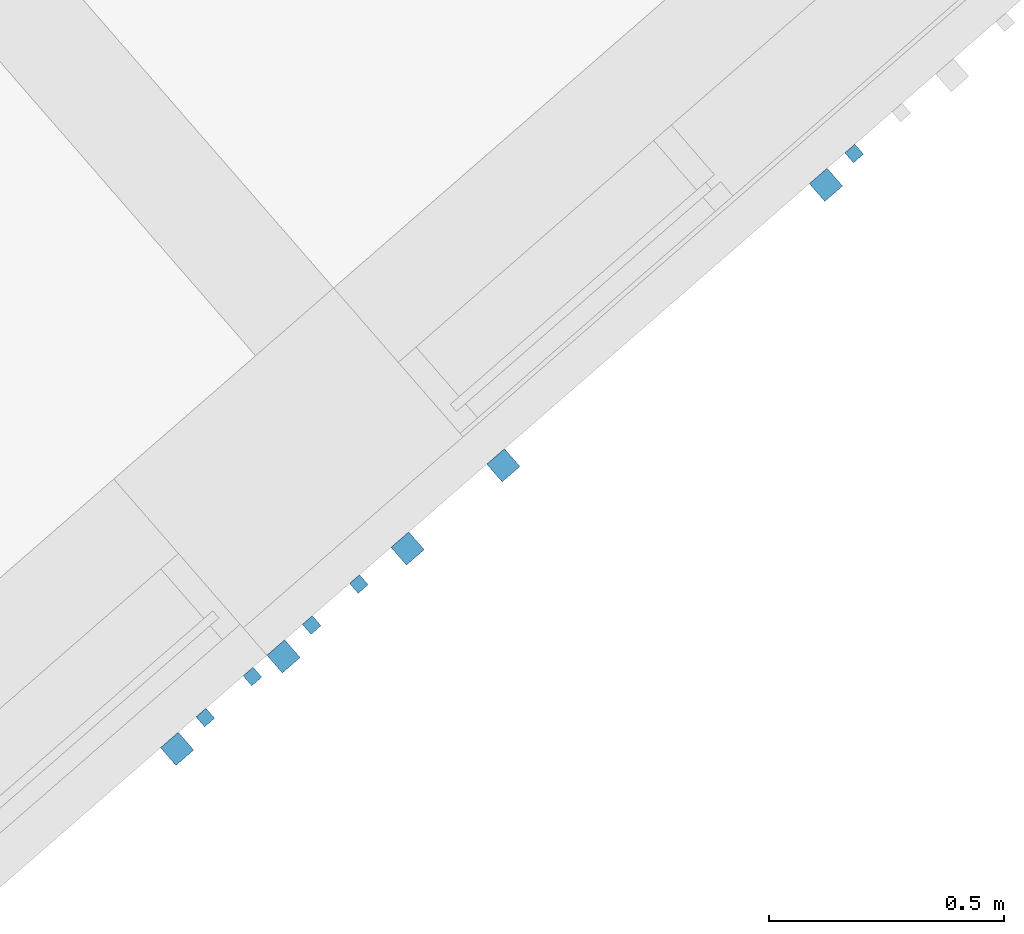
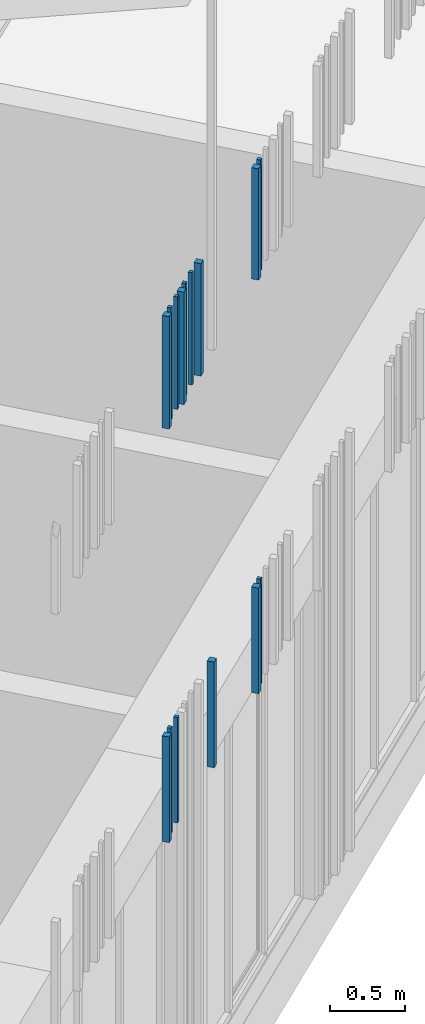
# One storey, part 90 of 124: 15 walls.
"""IFC2X3 building model written with IfcOpenShell, lengths in millimetres."""

from ifc_helpers import new_model, entity, si_unit, converted_unit, derived_unit, money_unit, direction, frame, origin_with_axes, place, context, subcontext, project, spatial, faceted_brep, material, type_object, element, save


model = new_model("IFC2X3")

# Units and contexts
model_context = context("Model", 3, precision=1e-05, world=origin_with_axes(), true_north=direction((0.0, 1.0)))
body_context = subcontext(model_context, "Body", "Model", "MODEL_VIEW")
ifc_project = project(units=[si_unit("LENGTHUNIT", "METRE", prefix="MILLI"), si_unit("AREAUNIT", "SQUARE_METRE"), si_unit("VOLUMEUNIT", "CUBIC_METRE"), converted_unit("PLANEANGLEUNIT", "DEGREE", entity("IfcPlaneAngleMeasure", 0.0174532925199), si_unit("PLANEANGLEUNIT", "RADIAN"), dimensions=[0, 0, 0, 0, 0, 0, 0]), si_unit("SOLIDANGLEUNIT", "STERADIAN"), money_unit("EUR"), converted_unit("TIMEUNIT", "Year", entity("IfcTimeMeasure", 31556926.0), si_unit("TIMEUNIT", "SECOND"), dimensions=[0, 0, 1, 0, 0, 0, 0]), si_unit("MASSUNIT", "GRAM", prefix="KILO"), si_unit("THERMODYNAMICTEMPERATUREUNIT", "DEGREE_CELSIUS"), si_unit("LUMINOUSINTENSITYUNIT", "LUMEN"), si_unit("ENERGYUNIT", "JOULE", prefix="MEGA"), derived_unit("THERMALCONDUCTANCEUNIT", [(si_unit("POWERUNIT", "WATT"), 1), (si_unit("LENGTHUNIT", "METRE"), -1), (si_unit("THERMODYNAMICTEMPERATUREUNIT", "KELVIN"), -1)]), derived_unit("SPECIFICHEATCAPACITYUNIT", [(si_unit("ENERGYUNIT", "JOULE"), 1), (si_unit("MASSUNIT", "GRAM", prefix="KILO"), -1), (si_unit("THERMODYNAMICTEMPERATUREUNIT", "KELVIN"), -1)]), derived_unit("MASSDENSITYUNIT", [(si_unit("MASSUNIT", "GRAM", prefix="KILO"), 1), (si_unit("VOLUMEUNIT", "CUBIC_METRE"), -1)])], contexts=[model_context])

# Site, building, storey
site_placement = place(None, origin_with_axes())
site = spatial("IfcSite", under=ifc_project, at=site_placement, Name="Site", CompositionType="ELEMENT")
building_placement = place(site_placement, origin_with_axes())
building = spatial("IfcBuilding", under=site, at=building_placement, Name="Building", CompositionType="ELEMENT")
storey_placement = place(building_placement, frame((0.0, 0.0, -1615.0), z_axis=(0.0, 0.0, 1.0), x_axis=(1.0, 0.0, 0.0)))
storey = spatial("IfcBuildingStorey", under=building, at=storey_placement, Name="0  korrus", CompositionType="ELEMENT", Elevation=-1615.0)

# Walls
ifc_material = material(Name="Site specified")
wall_type = type_object("IfcWallType", Name="Puitfassaadi ribistik", PredefinedType="NOTDEFINED")
for number, where, z_axis, x_axis, name in (
    (1, (152905.112235, 77563.5784916, 5915.0), (0.0, 0.0, 1.0), (-0.754709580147, -0.656059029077, 0.0), "Site specified"),
    (2, (153005.488608, 77650.8343419, 5915.0), (0.0, 0.0, 1.0), (-0.754709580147, -0.656059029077, 0.0), "Site specified"),
):
    element("IfcWall", number, at=place(storey_placement, frame(where, z_axis=z_axis, x_axis=x_axis)), inside=storey, type_object=wall_type, material=ifc_material, Name=name, context=body_context, shape_type="Brep", body=[
        faceted_brep([(14.0, 14.0, 915.0), (14.0, 14.0, 0.0), (-14.0, 14.0, 0.0), (-14.0, 14.0, 915.0), (14.0, -14.0, 915.0), (14.0, -14.0, 0.0), (-14.0, -14.0, 0.0), (-14.0, -14.0, 915.0)], [[[0, 1, 2, 3]], [[4, 5, 1, 0]], [[2, 1, 5, 6]], [[3, 2, 6, 7]], [[4, 0, 3, 7]], [[7, 6, 5, 4]]]),
    ])
for number, where, z_axis, x_axis, name in (
    (3, (152845.157338, 77496.8853527, 5915.0), (0.0, 0.0, 1.0), (-0.754709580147, -0.656059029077, 0.0), "Site specified"),
    (4, (153109.295955, 77726.4970636, 5915.0), (0.0, 0.0, 1.0), (-0.754709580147, -0.656059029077, 0.0), "Site specified"),
):
    element("IfcWall", number, at=place(storey_placement, frame(where, z_axis=z_axis, x_axis=x_axis)), inside=storey, type_object=wall_type, material=ifc_material, Name=name, context=body_context, shape_type="Brep", body=[
        faceted_brep([(25.0, 25.0, 915.0), (25.0, 25.0, 0.0), (-25.0, 25.0, 0.0), (-25.0, 25.0, 915.0), (25.0, -25.0, 915.0), (25.0, -25.0, 0.0), (-25.0, -25.0, 0.0), (-25.0, -25.0, 915.0)], [[[0, 1, 2, 3]], [[4, 5, 1, 0]], [[2, 1, 5, 6]], [[3, 2, 6, 7]], [[4, 0, 3, 7]], [[7, 6, 5, 4]]]),
    ])
for number, where, z_axis, x_axis, name in (
    (5, (152779.061747, 77454.0039896, 5915.0), (0.0, 0.0, 1.0), (-0.754709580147, -0.656059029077, 0.0), "Site specified"),
    (6, (152678.685374, 77366.7481393, 5915.0), (0.0, 0.0, 1.0), (-0.754709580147, -0.656059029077, 0.0), "Site specified"),
):
    element("IfcWall", number, at=place(storey_placement, frame(where, z_axis=z_axis, x_axis=x_axis)), inside=storey, type_object=wall_type, material=ifc_material, Name=name, context=body_context, shape_type="Brep", body=[
        faceted_brep([(14.0, 14.0, 915.0), (14.0, 14.0, 0.0), (-14.0, 14.0, 0.0), (-14.0, 14.0, 915.0), (14.0, -14.0, 915.0), (14.0, -14.0, 0.0), (-14.0, -14.0, 0.0), (-14.0, -14.0, 915.0)], [[[0, 1, 2, 3]], [[4, 5, 1, 0]], [[2, 1, 5, 6]], [[3, 2, 6, 7]], [[4, 0, 3, 7]], [[7, 6, 5, 4]]]),
    ])
wall_1_placement = place(storey_placement, frame((152618.730478, 77300.0550004, 5915.0), z_axis=(0.0, 0.0, 1.0), x_axis=(-0.754709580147, -0.656059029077, 0.0)))
element("IfcWall", 7, at=wall_1_placement, inside=storey, type_object=wall_type, material=ifc_material, Name="Site specified", context=body_context, shape_type="Brep", body=[
    faceted_brep([(25.0, 25.0, 915.0), (25.0, 25.0, 0.0), (-25.0, 25.0, 0.0), (-25.0, 25.0, 915.0), (25.0, -25.0, 915.0), (25.0, -25.0, 0.0), (-25.0, -25.0, 0.0), (-25.0, -25.0, 915.0)], [[[0, 1, 2, 3]], [[4, 5, 1, 0]], [[2, 1, 5, 6]], [[3, 2, 6, 7]], [[4, 0, 3, 7]], [[7, 6, 5, 4]]]),
])
wall_2_placement = place(storey_placement, frame((153313.078569, 77903.6430563, 2550.0), z_axis=(0.0, 0.0, 1.0), x_axis=(-0.754709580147, -0.656059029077, 0.0)))
element("IfcWall", 8, at=wall_2_placement, inside=storey, type_object=wall_type, material=ifc_material, Name="Site specified", context=body_context, shape_type="Brep", body=[
    faceted_brep([(25.0, 25.0, 860.0), (25.0, 25.0, 0.0), (-25.0, 25.0, 0.0), (-25.0, 25.0, 860.0), (25.0, -25.0, 860.0), (25.0, -25.0, 0.0), (-25.0, -25.0, 0.0), (-25.0, -25.0, 860.0)], [[[0, 1, 2, 3]], [[4, 5, 1, 0]], [[2, 1, 5, 6]], [[3, 2, 6, 7]], [[4, 0, 3, 7]], [[7, 6, 5, 4]]]),
])
for number, where, z_axis, x_axis, name in (
    (9, (152678.685374, 77366.7481393, 2550.0), (0.0, 0.0, 1.0), (-0.754709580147, -0.656059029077, 0.0), "Site specified"),
    (10, (152779.061747, 77454.0039896, 2550.0), (0.0, 0.0, 1.0), (-0.754709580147, -0.656059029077, 0.0), "Site specified"),
):
    element("IfcWall", number, at=place(storey_placement, frame(where, z_axis=z_axis, x_axis=x_axis)), inside=storey, type_object=wall_type, material=ifc_material, Name=name, context=body_context, shape_type="Brep", body=[
        faceted_brep([(14.0, 14.0, 860.000018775), (14.0, 14.0, 0.0), (-14.0, 14.0, 0.0), (-14.0, 14.0, 860.000018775), (14.0, -14.0, 860.000018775), (14.0, -14.0, 0.0), (-14.0, -14.0, 0.0), (-14.0, -14.0, 860.000018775)], [[[0, 1, 2, 3]], [[4, 5, 1, 0]], [[2, 1, 5, 6]], [[3, 2, 6, 7]], [[4, 0, 3, 7]], [[7, 6, 5, 4]]]),
    ])
wall_3_placement = place(storey_placement, frame((152618.730478, 77300.0550004, 2550.0), z_axis=(0.0, 0.0, 1.0), x_axis=(-0.754709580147, -0.656059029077, 0.0)))
element("IfcWall", 11, at=wall_3_placement, inside=storey, type_object=wall_type, material=ifc_material, Name="Site specified", context=body_context, shape_type="Brep", body=[
    faceted_brep([(25.0, 25.0, 860.000018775), (25.0, 25.0, 0.0), (-25.0, 25.0, 0.0), (-25.0, 25.0, 860.000018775), (25.0, -25.0, 860.000018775), (25.0, -25.0, 0.0), (-25.0, -25.0, 0.0), (-25.0, -25.0, 860.000018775)], [[[0, 1, 2, 3]], [[4, 5, 1, 0]], [[2, 1, 5, 6]], [[3, 2, 6, 7]], [[4, 0, 3, 7]], [[7, 6, 5, 4]]]),
])
wall_4_placement = place(storey_placement, frame((154059.802319, 78567.3347832, 2550.00001878), z_axis=(0.0, 0.0, 1.0), x_axis=(-0.754709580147, -0.656059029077, 0.0)))
element("IfcWall", 12, at=wall_4_placement, inside=storey, type_object=wall_type, material=ifc_material, Name="Site specified", context=body_context, shape_type="Brep", body=[
    faceted_brep([(14.0, 14.0, 860.0), (14.0, 14.0, 0.0), (-14.0, 14.0, 0.0), (-14.0, 14.0, 860.0), (14.0, -14.0, 860.0), (14.0, -14.0, 0.0), (-14.0, -14.0, 0.0), (-14.0, -14.0, 860.0)], [[[0, 1, 2, 3]], [[4, 5, 1, 0]], [[2, 1, 5, 6]], [[3, 2, 6, 7]], [[4, 0, 3, 7]], [[7, 6, 5, 4]]]),
])
wall_5_placement = place(storey_placement, frame((153999.847423, 78500.6416442, 2550.00001878), z_axis=(0.0, 0.0, 1.0), x_axis=(-0.754709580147, -0.656059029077, 0.0)))
element("IfcWall", 13, at=wall_5_placement, inside=storey, type_object=wall_type, material=ifc_material, Name="Site specified", context=body_context, shape_type="Brep", body=[
    faceted_brep([(25.0, 25.0, 860.0), (25.0, 25.0, 0.0), (-25.0, 25.0, 0.0), (-25.0, 25.0, 860.0), (25.0, -25.0, 860.0), (25.0, -25.0, 0.0), (-25.0, -25.0, 0.0), (-25.0, -25.0, 860.0)], [[[0, 1, 2, 3]], [[4, 5, 1, 0]], [[2, 1, 5, 6]], [[3, 2, 6, 7]], [[4, 0, 3, 7]], [[7, 6, 5, 4]]]),
])
wall_6_placement = place(storey_placement, frame((154059.802319, 78567.3347832, 5915.0), z_axis=(0.0, 0.0, 1.0), x_axis=(-0.754709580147, -0.656059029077, 0.0)))
element("IfcWall", 14, at=wall_6_placement, inside=storey, type_object=wall_type, material=ifc_material, Name="Site specified", context=body_context, shape_type="Brep", body=[
    faceted_brep([(14.0, 14.0, 906.0), (14.0, 14.0, 0.0), (-14.0, 14.0, 0.0), (-14.0, 14.0, 906.0), (14.0, -14.0, 906.0), (14.0, -14.0, 0.0), (-14.0, -14.0, 0.0), (-14.0, -14.0, 906.0)], [[[0, 1, 2, 3]], [[4, 5, 1, 0]], [[2, 1, 5, 6]], [[3, 2, 6, 7]], [[4, 0, 3, 7]], [[7, 6, 5, 4]]]),
])
wall_7_placement = place(storey_placement, frame((153999.847423, 78500.6416442, 5915.0), z_axis=(0.0, 0.0, 1.0), x_axis=(-0.754709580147, -0.656059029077, 0.0)))
element("IfcWall", 15, at=wall_7_placement, inside=storey, type_object=wall_type, material=ifc_material, Name="Site specified", context=body_context, shape_type="Brep", body=[
    faceted_brep([(25.0, 25.0, 906.0), (25.0, 25.0, 0.0), (-25.0, 25.0, 0.0), (-25.0, 25.0, 906.0), (25.0, -25.0, 906.0), (25.0, -25.0, 0.0), (-25.0, -25.0, 0.0), (-25.0, -25.0, 906.0)], [[[0, 1, 2, 3]], [[4, 5, 1, 0]], [[2, 1, 5, 6]], [[3, 2, 6, 7]], [[4, 0, 3, 7]], [[7, 6, 5, 4]]]),
])

save(model, "model.ifc")
